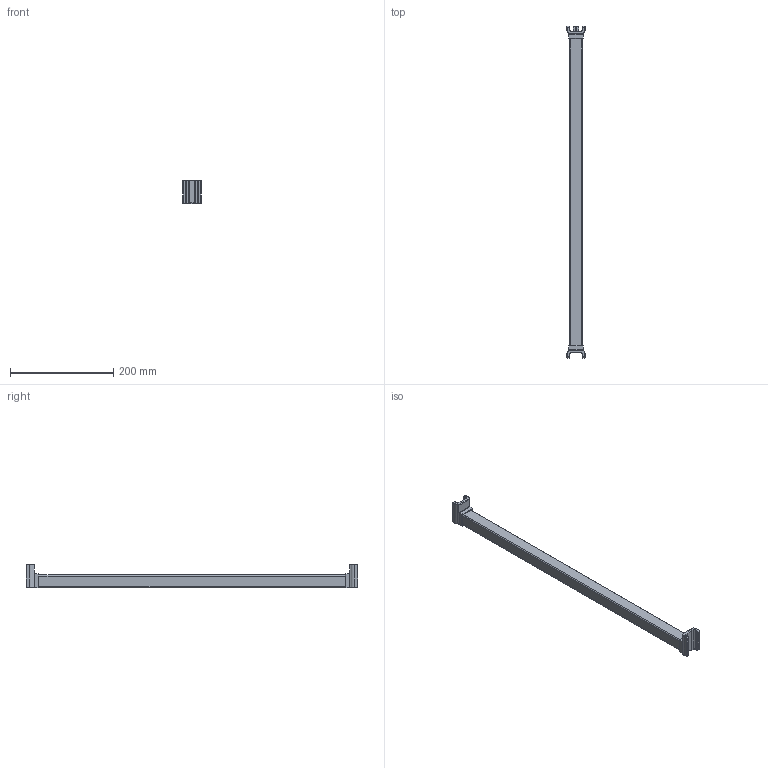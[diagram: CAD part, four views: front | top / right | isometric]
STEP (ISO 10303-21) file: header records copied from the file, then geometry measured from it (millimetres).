
FILE_DESCRIPTION (( 'STEP AP214' ), '1' );
FILE_NAME ('1000254.STEP', '2025-10-01T14:38:53', ( '' ), ( '' ), 'SwSTEP 2.0', 'SolidWorks 2025', '' );
FILE_SCHEMA (( 'AUTOMOTIVE_DESIGN' ));
Length unit declared in the file: millimetre
Products named in the file (1): 1000254
Bounding box: 35.6 x 643 x 46.3 mm (x, y, z)
Volume: 452050.1 mm3; surface area: 83877.9 mm2
Topology: 8 solids, 8 shells, 468 faces, 1260 edges, 811 vertices
Faces by surface type: plane 320, cylinder 128, bspline 20
Entity records: 14937 total; most frequent: CARTESIAN_POINT 3431, ORIENTED_EDGE 2520, DIRECTION 2150, EDGE_CURVE 1260, LINE 922, VECTOR 922, VERTEX_POINT 811, AXIS2_PLACEMENT_3D 614
